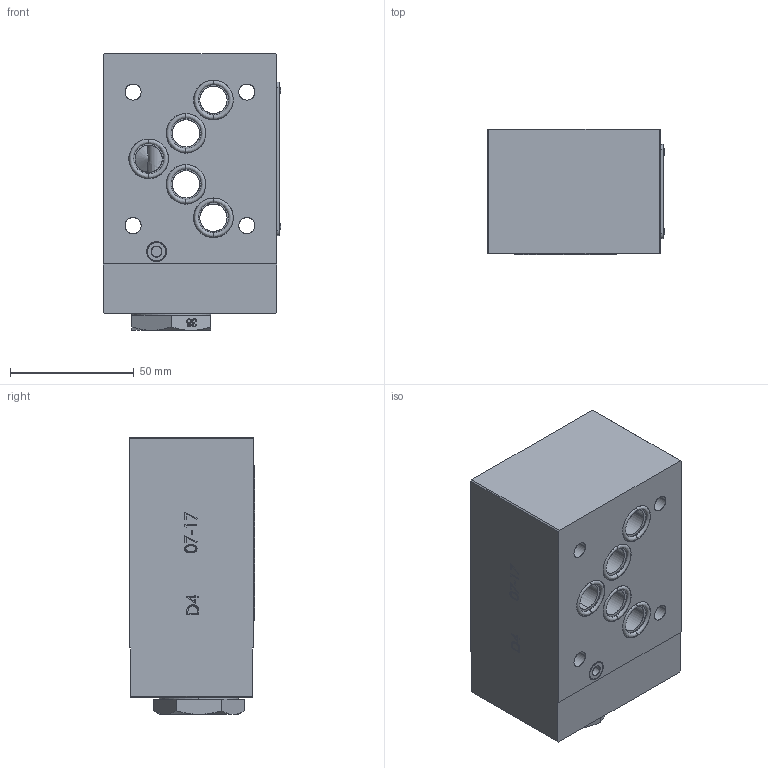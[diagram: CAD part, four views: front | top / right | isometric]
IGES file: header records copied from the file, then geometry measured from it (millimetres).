
Start section: SolidWorks IGES file using analytic representation for surfaces
Global section: file name: C:\Users\pc-te25\Desktop\357-6-P-05.IGS; native system: SolidWorks 2018; preprocessor: SolidWorks 2018; author: pc-te25; date: 191204.085222; units: millimetre
Bounding box: 71.66 x 50.58 x 111.8 mm (x, y, z)
Surface area: 50354.1 mm2 (no closed solid volume)
Topology: 0 solids, 0 shells, 719 faces, 13486 edges, 13484 vertices
Faces by surface type: bspline 580, revolution 139
